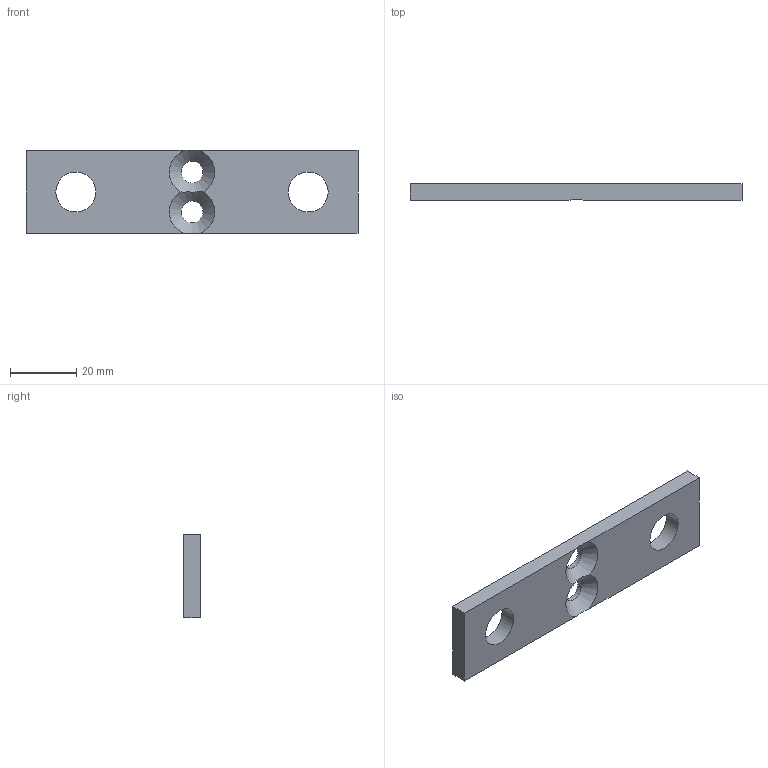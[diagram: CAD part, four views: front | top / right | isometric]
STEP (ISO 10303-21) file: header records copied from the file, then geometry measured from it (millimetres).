
FILE_DESCRIPTION(/* description */ (''),/* implementation_level */ '2;1');
FILE_NAME(/* name */ 'Pos151-153.1.100 100 x 5 50 x 47 PM6-Aluminium-23st',/* time_stamp */ '2024-08-06T11:49:45+02:00',/* author */ (''),/* organization */ (''),/* preprocessor_version */ 'ST-DEVELOPER v16.5',/* originating_system */ 'HiCAD 2024 2901.2 Build 361',/* authorisation */ '');
FILE_SCHEMA (('AUTOMOTIVE_DESIGN { 1 0 10303 214 1 1 1 1 }'));
Length unit declared in the file: millimetre
Products named in the file (1): Pos151-153.1.100 100 x 5 50 x 47 PM6-Aluminium-23st
Bounding box: 100 x 5 x 25 mm (x, y, z)
Volume: 10674.7 mm3; surface area: 6185.7 mm2
Topology: 1 solids, 1 shells, 13 faces, 41 edges, 30 vertices
Faces by surface type: plane 7, cylinder 4, cone 2
Full cylindrical faces by diameter (mm): 6.6 x2, 12 x2
Entity records: 746 total; most frequent: CARTESIAN_POINT 115, DIRECTION 64, PRESENTATION_STYLE_ASSIGNMENT 59, COLOUR_RGB 59, DRAUGHTING_PRE_DEFINED_CURVE_FONT 58, CURVE_STYLE 58, OVER_RIDING_STYLED_ITEM 58, ORIENTED_EDGE 58
